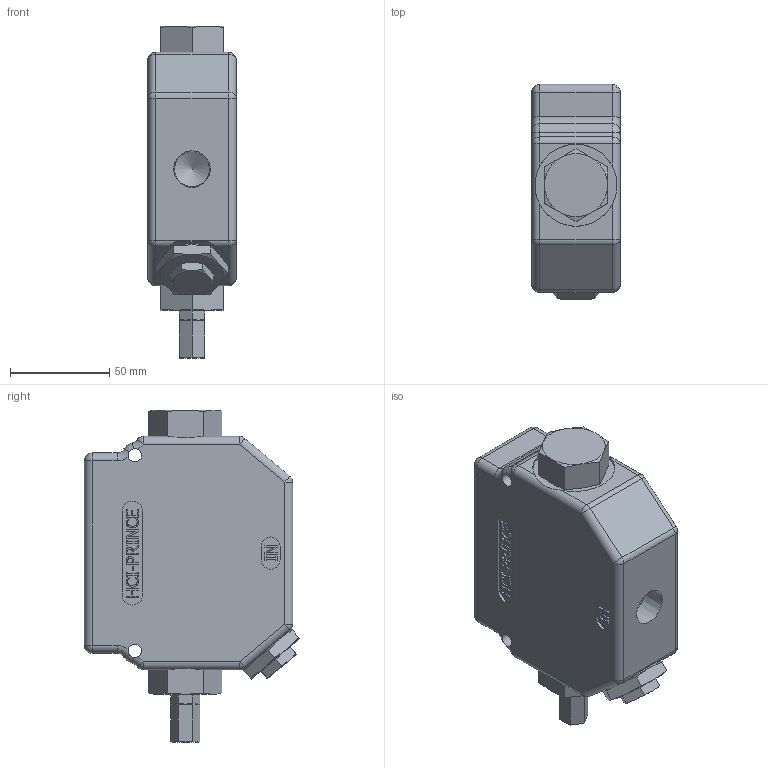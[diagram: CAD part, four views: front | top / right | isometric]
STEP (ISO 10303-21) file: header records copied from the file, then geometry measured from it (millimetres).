
FILE_DESCRIPTION((''),'2;1');
FILE_NAME('C:\Vault\Workspace\z_ShellModels\Misc_RD_RV\RD-1050Sx.stp','2012-03-19T11:39:36',('PetersW'),(''),'Autodesk Inventor 2012','Autodesk Inventor 2012','');
FILE_SCHEMA(('AUTOMOTIVE_DESIGN { 1 0 10303 214 1 1 1 1 }'));
Length unit declared in the file: inch
Products named in the file (1): Part3
Bounding box: 44.45 x 108.26 x 167.08 mm (x, y, z)
Volume: 515000.2 mm3; surface area: 53083.2 mm2
Topology: 1 solids, 3 shells, 653 faces, 1679 edges, 1072 vertices
Faces by surface type: plane 372, bspline 127, cone 80, cylinder 50, sphere 16, torus 8
Full cylindrical faces by diameter (mm): 6.731 x2, 14.3 x1, 17.475 x2, 19.558 x2, 31.75 x1, 41.275 x2
Entity records: 20646 total; most frequent: CARTESIAN_POINT 5447, ORIENTED_EDGE 3292, DIRECTION 2492, EDGE_CURVE 1646, VERTEX_POINT 1058, VECTOR 1038, LINE 1038, AXIS2_PLACEMENT_3D 727
